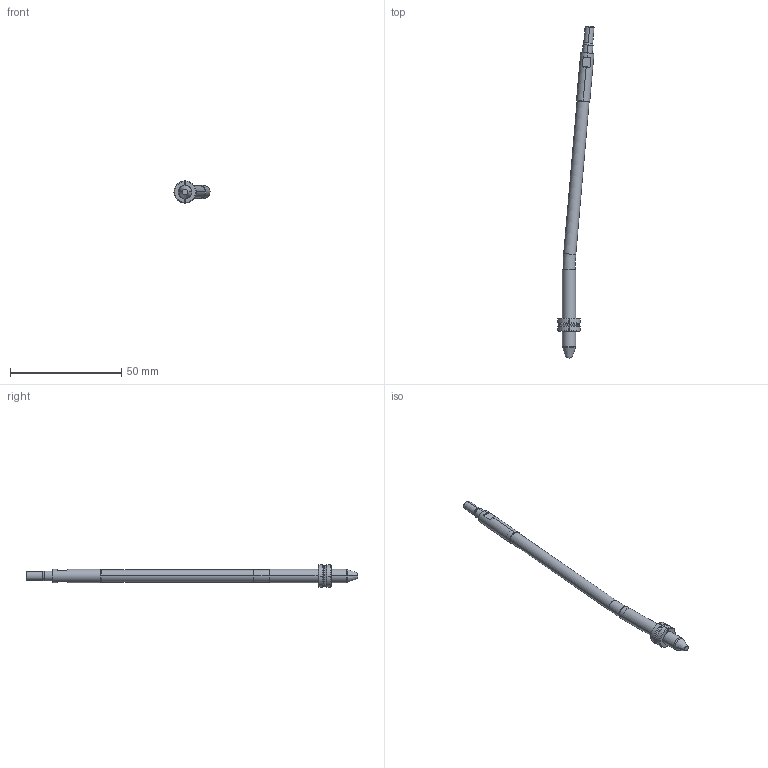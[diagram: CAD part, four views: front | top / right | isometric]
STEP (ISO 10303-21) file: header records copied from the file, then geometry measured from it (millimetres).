
FILE_DESCRIPTION (( 'STEP AP214' ), '1' );
FILE_NAME ('WP060060-EJE 5°.STEP', '2021-03-19T15:16:25', ( '' ), ( '' ), 'SwSTEP 2.0', 'SolidWorks 2019', '' );
FILE_SCHEMA (( 'AUTOMOTIVE_DESIGN' ));
Length unit declared in the file: millimetre
Products named in the file (6): WEB-001-9WP060030-1; WP060060-EJE 5°; WEB-008-JUNTA-JT7X1X9; WEB-002-9WP060030-2; WEB-007-9WP060060-F_WP060060-F-ON 5ø; WEB-006-9WP060030-6
Assembly tree (5 placements, depth 2):
  WP060060-EJE 5°
    WEB-001-9WP060030-1
    WEB-007-9WP060060-F_WP060060-F-ON 5ø
    WEB-002-9WP060030-2
    WEB-006-9WP060030-6
    WEB-008-JUNTA-JT7X1X9
Bounding box: 16.24 x 149.54 x 9.99 mm (x, y, z)
Volume: 3873.7 mm3; surface area: 3434.2 mm2
Topology: 6 solids, 6 shells, 112 faces, 262 edges, 164 vertices
Faces by surface type: cylinder 36, cone 28, plane 28, torus 20
Entity records: 3723 total; most frequent: CARTESIAN_POINT 714, DIRECTION 598, ORIENTED_EDGE 524, EDGE_CURVE 262, AXIS2_PLACEMENT_3D 256, VERTEX_POINT 164, CIRCLE 136, EDGE_LOOP 116
